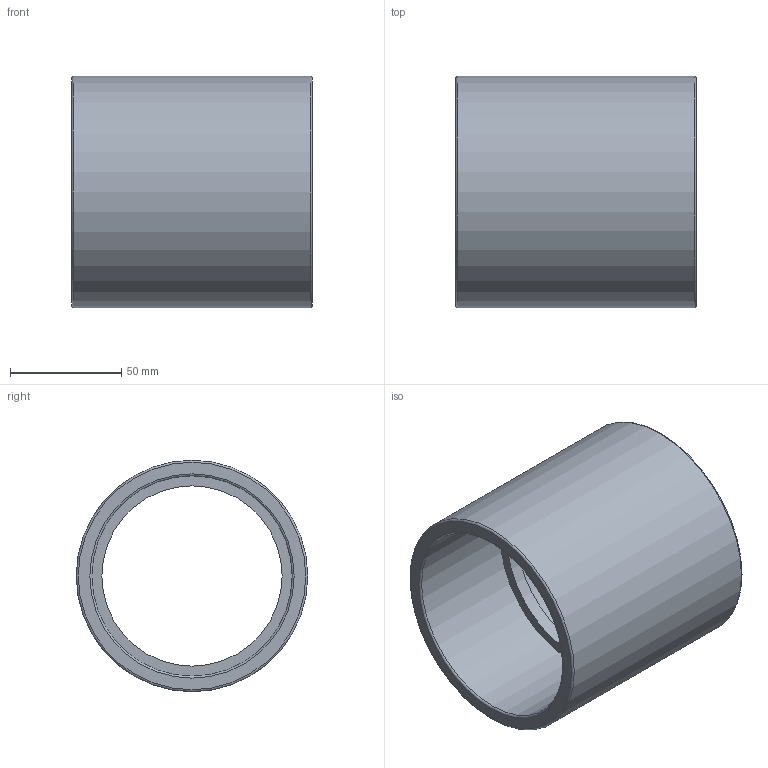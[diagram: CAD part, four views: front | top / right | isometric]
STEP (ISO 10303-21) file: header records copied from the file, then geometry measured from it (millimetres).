
FILE_DESCRIPTION(/* description */ ('PLASSON SOCKET PVC 90 - CEMENT'),/* implementation_level */ '2;1');
FILE_NAME(/* name */ 'C:\Dropbox\KIMPROJECTS-Inventor\99-16-3568-Processing\PVC Catalog 2017\050100\050100090.ipt.stp',/* time_stamp */ '2017-12-07T15:51:27+02:00',/* author */ ('KIM'),/* organization */ (''),/* preprocessor_version */ 'ST-DEVELOPER v15.6',/* originating_system */ 'Autodesk Inventor 2015',/* authorisation */ '');
FILE_SCHEMA (('AUTOMOTIVE_DESIGN { 1 0 10303 214 3 1 1 }'));
Length unit declared in the file: millimetre
Products named in the file (1): 050100090
Bounding box: 108 x 104 x 104 mm (x, y, z)
Volume: 237419.8 mm3; surface area: 71865.9 mm2
Topology: 1 solids, 1 shells, 12 faces, 20 edges, 12 vertices
Faces by surface type: torus 4, plane 4, cylinder 4
Full cylindrical faces by diameter (mm): 81 x1, 90 x2, 104 x1
Entity records: 272 total; most frequent: DIRECTION 50, CARTESIAN_POINT 37, AXIS2_PLACEMENT_3D 25, EDGE_LOOP 24, ORIENTED_EDGE 24, FACE_BOUND 12, FACE_OUTER_BOUND 12, CIRCLE 12
